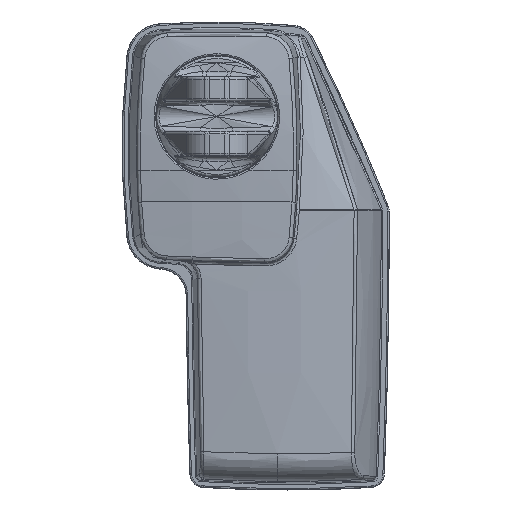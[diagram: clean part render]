
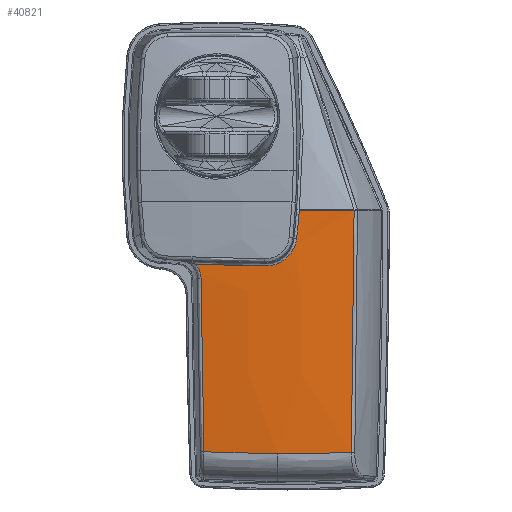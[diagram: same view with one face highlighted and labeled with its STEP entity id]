
A CAD part, top view. The second image highlights one B-rep face of the part: STEP entity #40821.
In plain terms, the highlighted free-form (B-spline) face has degree [3, 3] with [4, 4] control points.
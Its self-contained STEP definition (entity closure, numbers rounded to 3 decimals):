
#4016=CARTESIAN_POINT('',(47.56,-118.85,48.673));
#4056=CARTESIAN_POINT('',(-4.569,-118.539,
47.891));
#4089=CARTESIAN_POINT('',(-5.598,-57.13,
48.889));
#4090=CARTESIAN_POINT('',(-5.548,-63.965,
48.84));
#4091=CARTESIAN_POINT('',(-5.404,-77.628,
48.701));
#4092=CARTESIAN_POINT('',(-5.061,-98.098,
48.368));
#4093=CARTESIAN_POINT('',(-4.747,-111.728,
48.064));
#4094=CARTESIAN_POINT('',(-4.569,-118.539,
47.891));
#4108=CARTESIAN_POINT('',(-7.484,-52.274,
48.667));
#4109=CARTESIAN_POINT('',(-7.31,-52.468,
48.69));
#4110=CARTESIAN_POINT('',(-6.987,-52.867,
48.732));
#4111=CARTESIAN_POINT('',(-6.568,-53.517,
48.786));
#4112=CARTESIAN_POINT('',(-6.231,-54.173,
48.827));
#4113=CARTESIAN_POINT('',(-5.961,-54.868,
48.858));
#4114=CARTESIAN_POINT('',(-5.755,-55.61,
48.88));
#4115=CARTESIAN_POINT('',(-5.632,-56.354,
48.89));
#4116=CARTESIAN_POINT('',(-5.601,-56.869,
48.89));
#4117=CARTESIAN_POINT('',(-5.598,-57.13,
48.889));
#4119=CARTESIAN_POINT('',(-5.598,-57.13,
48.889));
#4127=CARTESIAN_POINT('',(-7.484,-52.274,
48.667));
#7206=CARTESIAN_POINT('',(-7.484,-52.274,
48.667));
#7207=CARTESIAN_POINT('',(0.65,-52.444,
49.809));
#7208=CARTESIAN_POINT('',(8.844,-52.63,50.521));
#7209=CARTESIAN_POINT('',(17.052,-52.835,50.799));
#7211=CARTESIAN_POINT('',(17.052,-52.835,50.799));
#7212=CARTESIAN_POINT('',(17.436,-52.845,50.812));
#7213=CARTESIAN_POINT('',(18.202,-52.824,50.836));
#7214=CARTESIAN_POINT('',(19.355,-52.671,50.868));
#7215=CARTESIAN_POINT('',(20.49,-52.394,50.895));
#7216=CARTESIAN_POINT('',(21.572,-52.006,50.915));
#7217=CARTESIAN_POINT('',(22.623,-51.5,50.932));
#7218=CARTESIAN_POINT('',(23.617,-50.883,50.943));
#7219=CARTESIAN_POINT('',(24.534,-50.169,50.951));
#7220=CARTESIAN_POINT('',(25.378,-49.353,50.956));
#7221=CARTESIAN_POINT('',(26.123,-48.46,50.958));
#7222=CARTESIAN_POINT('',(26.768,-47.496,50.959));
#7223=CARTESIAN_POINT('',(27.309,-46.469,50.959));
#7224=CARTESIAN_POINT('',(27.742,-45.377,50.959));
#7225=CARTESIAN_POINT('',(28.053,-44.263,50.959));
#7226=CARTESIAN_POINT('',(28.182,-43.474,50.96));
#7227=CARTESIAN_POINT('',(28.226,-43.071,50.961));
#7229=CARTESIAN_POINT('',(-269.457,-10.459,
22.327));
#7230=DIRECTION('',(-0.095,0.009,0.995));
#7231=DIRECTION('',(0.99,-0.108,0.095));
#7232=AXIS2_PLACEMENT_3D('',#7229,#7230,#7231);
#7234=CARTESIAN_POINT('',(25.,-33.08,
-182.5));
#7235=DIRECTION('',(0.,1.,0.));
#7236=DIRECTION('',(0.018,0.,1.));
#7237=AXIS2_PLACEMENT_3D('',#7234,#7235,#7236);
#7239=DIRECTION('',(0.342,-0.939,-0.035));
#7240=VECTOR('',#7239,0.16);
#7241=CARTESIAN_POINT('',(48.468,-33.08,49.818));
#7242=LINE('',#7241,#7240);
#7243=CARTESIAN_POINT('',(48.523,-33.23,49.812));
#7244=CARTESIAN_POINT('',(48.522,-47.503,49.811));
#7245=CARTESIAN_POINT('',(48.362,-76.049,49.62));
#7246=CARTESIAN_POINT('',(47.883,-104.586,49.052));
#7247=CARTESIAN_POINT('',(47.56,-118.85,48.673));
#7249=CARTESIAN_POINT('',(47.56,-118.85,48.673));
#7250=CARTESIAN_POINT('',(44.653,-118.962,48.954));
#7251=CARTESIAN_POINT('',(38.829,-119.141,49.406));
#7252=CARTESIAN_POINT('',(30.072,-119.281,49.759));
#7253=CARTESIAN_POINT('',(24.23,-119.288,49.776));
#7254=CARTESIAN_POINT('',(21.31,-119.27,49.73));
#7256=CARTESIAN_POINT('',(21.31,-119.27,49.73));
#7257=CARTESIAN_POINT('',(18.427,-119.252,49.685));
#7258=CARTESIAN_POINT('',(12.661,-119.174,49.488));
#7259=CARTESIAN_POINT('',(4.028,-118.93,48.874));
#7260=CARTESIAN_POINT('',(-1.707,-118.683,
48.254));
#7261=CARTESIAN_POINT('',(-4.569,-118.539,
47.891));
#7263=CARTESIAN_POINT('',(17.052,-52.835,50.799));
#24943=VERTEX_POINT('',#4016);
#24946=CARTESIAN_POINT('',(21.31,-119.27,
49.73));
#24947=VERTEX_POINT('',#24946);
#24949=VERTEX_POINT('',#4056);
#24950=VERTEX_POINT('',#4119);
#24951=VERTEX_POINT('',#4127);
#24954=VERTEX_POINT('',#7263);
#25011=CARTESIAN_POINT('',(48.468,-33.08,
49.818));
#25012=VERTEX_POINT('',#25011);
#25014=CARTESIAN_POINT('',(29.151,-33.08,
50.963));
#25015=VERTEX_POINT('',#25014);
#25016=VERTEX_POINT('',#7227);
#25017=CARTESIAN_POINT('',(48.523,-33.23,
49.812));
#25018=VERTEX_POINT('',#25017);
#40788=CARTESIAN_POINT('',(49.64,-31.355,
49.696));
#40789=CARTESIAN_POINT('',(49.642,-61.245,
49.712));
#40790=CARTESIAN_POINT('',(49.596,-91.132,
49.284));
#40791=CARTESIAN_POINT('',(49.504,-121.009,
48.412));
#40792=CARTESIAN_POINT('',(30.229,-31.355,
51.756));
#40793=CARTESIAN_POINT('',(30.229,-61.245,
51.772));
#40794=CARTESIAN_POINT('',(30.22,-91.132,
51.34));
#40795=CARTESIAN_POINT('',(30.2,-121.009,
50.461));
#40796=CARTESIAN_POINT('',(10.713,-31.355,
51.378));
#40797=CARTESIAN_POINT('',(10.712,-61.245,
51.394));
#40798=CARTESIAN_POINT('',(10.738,-91.132,
50.963));
#40799=CARTESIAN_POINT('',(10.792,-121.009,
50.085));
#40800=CARTESIAN_POINT('',(-8.604,-31.355,
48.569));
#40801=CARTESIAN_POINT('',(-8.606,-61.245,
48.585));
#40802=CARTESIAN_POINT('',(-8.545,-91.132,
48.159));
#40803=CARTESIAN_POINT('',(-8.418,-121.009,
47.292));
#40804=(BOUNDED_SURFACE()B_SPLINE_SURFACE(3,3,((#40788,#40789,#40790,#40791),(
#40792,#40793,#40794,#40795),(#40796,#40797,#40798,#40799),(#40800,#40801,
#40802,#40803)),.UNSPECIFIED.,.F.,.F.,.F.)B_SPLINE_SURFACE_WITH_KNOTS((4,4),(4,
4),(0.,1.),(0.,1.),.UNSPECIFIED.)GEOMETRIC_REPRESENTATION_ITEM()RATIONAL_B_SPLINE_SURFACE(((1.004,1.004,1.004,
1.004),(0.999,0.999,0.999,
0.999),(0.999,0.999,0.999,
0.999),(1.004,1.004,1.004,
1.004)))REPRESENTATION_ITEM('')SURFACE());
#40805=ORIENTED_EDGE('',*,*,#33855,.F.);
#40806=ORIENTED_EDGE('',*,*,#33913,.F.);
#40807=ORIENTED_EDGE('',*,*,#34112,.T.);
#40809=ORIENTED_EDGE('',*,*,#40808,.T.);
#40811=ORIENTED_EDGE('',*,*,#40810,.T.);
#40812=ORIENTED_EDGE('',*,*,#40781,.T.);
#40814=ORIENTED_EDGE('',*,*,#40813,.T.);
#40816=ORIENTED_EDGE('',*,*,#40815,.T.);
#40817=ORIENTED_EDGE('',*,*,#33704,.T.);
#40818=ORIENTED_EDGE('',*,*,#33720,.T.);
#40819=EDGE_LOOP('',(#40805,#40806,#40807,#40809,#40811,#40812,#40814,#40816,
#40817,#40818));
#40820=FACE_OUTER_BOUND('',#40819,.F.);
#40821=ADVANCED_FACE('',(#40820),#40804,.T.);
#4095=B_SPLINE_CURVE_WITH_KNOTS('',3,(#4089,#4090,#4091,#4092,#4093,#4094),
.UNSPECIFIED.,.F.,.F.,(4,1,1,4),(0.,0.333,0.667,1.),
.UNSPECIFIED.);
#4118=B_SPLINE_CURVE_WITH_KNOTS('',3,(#4108,#4109,#4110,#4111,#4112,#4113,#4114,
#4115,#4116,#4117),.UNSPECIFIED.,.F.,.F.,(4,1,1,1,1,1,1,4),(0.,
0.143,0.286,0.429,0.571,
0.714,0.857,1.),.UNSPECIFIED.);
#7210=B_SPLINE_CURVE_WITH_KNOTS('',3,(#7206,#7207,#7208,#7209),.UNSPECIFIED.,
.F.,.F.,(4,4),(0.,1.),.UNSPECIFIED.);
#7228=B_SPLINE_CURVE_WITH_KNOTS('',3,(#7211,#7212,#7213,#7214,#7215,#7216,#7217,
#7218,#7219,#7220,#7221,#7222,#7223,#7224,#7225,#7226,#7227),.UNSPECIFIED.,.F.,
.F.,(4,1,1,1,1,1,1,1,1,1,1,1,1,1,4),(0.,0.071,0.143,
0.214,0.286,0.357,0.429,0.5,
0.571,0.643,0.714,0.786,
0.857,0.929,1.),.UNSPECIFIED.);
#7233=CIRCLE('',#7232,300.829);
#7238=CIRCLE('',#7237,233.5);
#7248=B_SPLINE_CURVE_WITH_KNOTS('',3,(#7243,#7244,#7245,#7246,#7247),
.UNSPECIFIED.,.F.,.F.,(4,1,4),(0.,0.5,1.),.UNSPECIFIED.);
#7255=B_SPLINE_CURVE_WITH_KNOTS('',3,(#7249,#7250,#7251,#7252,#7253,#7254),
.UNSPECIFIED.,.F.,.F.,(4,1,1,4),(0.,0.333,0.667,1.),
.UNSPECIFIED.);
#7262=B_SPLINE_CURVE_WITH_KNOTS('',3,(#7256,#7257,#7258,#7259,#7260,#7261),
.UNSPECIFIED.,.F.,.F.,(4,1,1,4),(0.,0.333,0.667,1.),
.UNSPECIFIED.);
#33704=EDGE_CURVE('',#24943,#24947,#7255,.T.);
#33720=EDGE_CURVE('',#24947,#24949,#7262,.T.);
#33855=EDGE_CURVE('',#24950,#24949,#4095,.T.);
#33913=EDGE_CURVE('',#24951,#24950,#4118,.T.);
#34112=EDGE_CURVE('',#24951,#24954,#7210,.T.);
#40781=EDGE_CURVE('',#25015,#25012,#7238,.T.);
#40808=EDGE_CURVE('',#24954,#25016,#7228,.T.);
#40810=EDGE_CURVE('',#25016,#25015,#7233,.T.);
#40813=EDGE_CURVE('',#25012,#25018,#7242,.T.);
#40815=EDGE_CURVE('',#25018,#24943,#7248,.T.);
